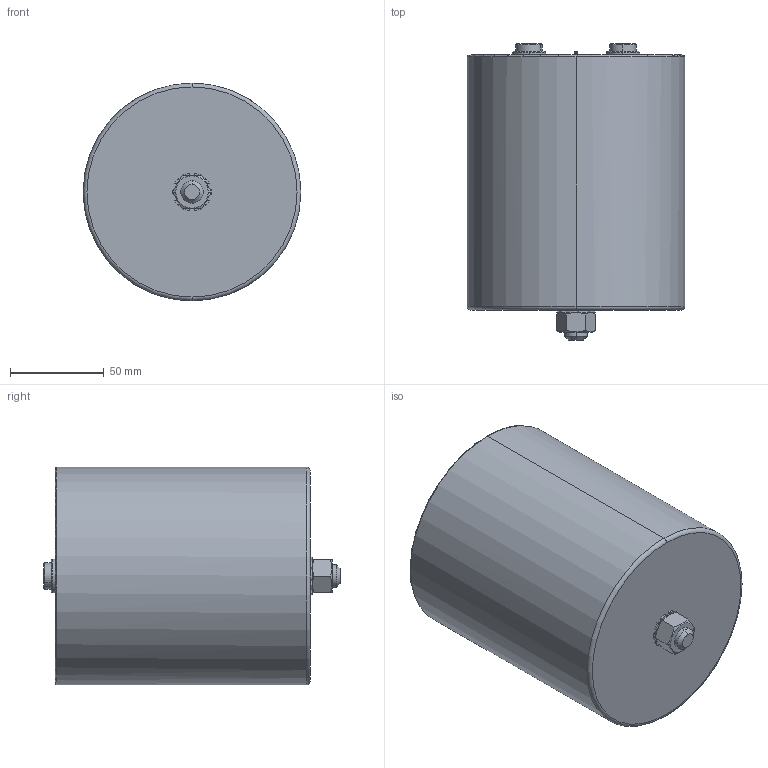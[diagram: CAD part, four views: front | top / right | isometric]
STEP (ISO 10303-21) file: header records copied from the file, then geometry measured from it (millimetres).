
FILE_DESCRIPTION (( 'STEP AP214' ), '1' );
FILE_NAME ('B25694M Series D116 Hc136 Ht142.STEP', '2025-07-24T05:37:58', ( '' ), ( '' ), 'SwSTEP 2.0', 'SolidWorks 2019', '' );
FILE_SCHEMA (( 'AUTOMOTIVE_DESIGN' ));
Length unit declared in the file: millimetre
Products named in the file (1): B25694M Series D116 Hc136 Ht142
Bounding box: 116 x 158 x 116 mm (x, y, z)
Volume: 1442431.6 mm3; surface area: 72112.3 mm2
Topology: 1 solids, 2 shells, 143 faces, 347 edges, 208 vertices
Faces by surface type: plane 60, cylinder 51, cone 22, torus 6, sphere 4
Entity records: 4281 total; most frequent: CARTESIAN_POINT 823, DIRECTION 791, ORIENTED_EDGE 678, EDGE_CURVE 339, AXIS2_PLACEMENT_3D 320, VERTEX_POINT 208, CIRCLE 176, EDGE_LOOP 153
